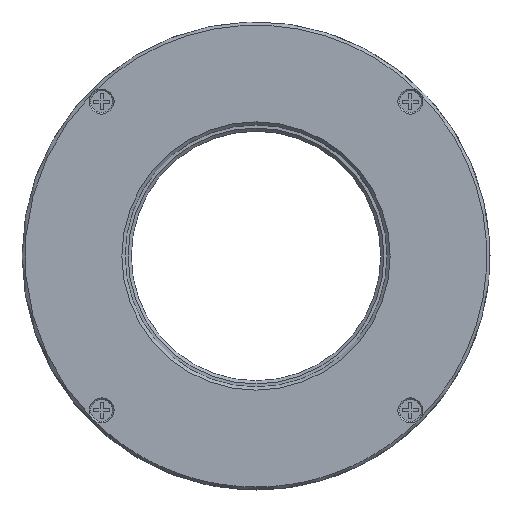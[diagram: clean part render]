
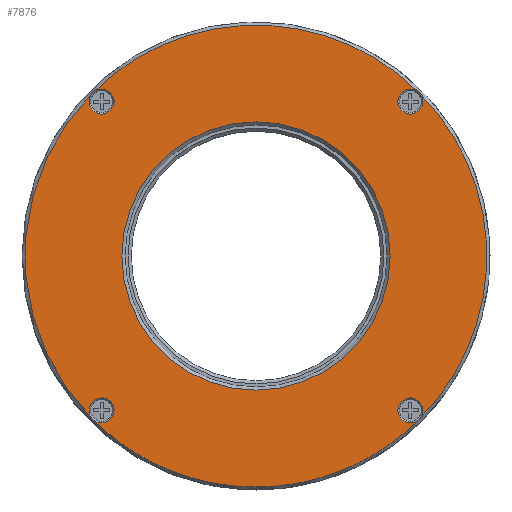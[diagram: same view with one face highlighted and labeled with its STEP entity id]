
A CAD part, front view. The second image highlights one B-rep face of the part: STEP entity #7876.
In plain terms, the highlighted planar face has unit normal (0, -1, 0).
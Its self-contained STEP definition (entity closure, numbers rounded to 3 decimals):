
#7790=CARTESIAN_POINT('',(-21.5,-1.5,0.));
#7791=VERTEX_POINT('',#7790);
#7792=CARTESIAN_POINT('',(0.0,-1.5,0.0));
#7793=DIRECTION('',(0.0,-1.0,0.0));
#7794=DIRECTION('',(1.0,0.0,0.0));
#7795=AXIS2_PLACEMENT_3D('',#7792,#7793,#7794);
#7796=CIRCLE('',#7795,21.5);
#7797=EDGE_CURVE('',#7791,#7791,#7796,.T.);
#7802=CARTESIAN_POINT('',(-29.25,-1.5,0.));
#7803=DIRECTION('',(0.0,-1.0,0.0));
#7804=DIRECTION('',(0.0,0.0,-1.0));
#7805=AXIS2_PLACEMENT_3D('',#7802,#7803,#7804);
#7806=PLANE('',#7805);
#7807=CARTESIAN_POINT('',(26.163,-1.5,-26.163));
#7808=VERTEX_POINT('',#7807);
#7809=CARTESIAN_POINT('',(24.749,-1.5,-24.749));
#7810=DIRECTION('',(0.0,1.0,0.0));
#7811=DIRECTION('',(0.0,0.0,-1.0));
#7812=AXIS2_PLACEMENT_3D('',#7809,#7810,#7811);
#7813=CIRCLE('',#7812,2.0);
#7814=EDGE_CURVE('',#7808,#7808,#7813,.T.);
#7815=ORIENTED_EDGE('',*,*,#7814,.T.);
#7816=CARTESIAN_POINT('',(26.163,-1.5,26.163));
#7817=VERTEX_POINT('',#7816);
#7818=CARTESIAN_POINT('',(0.0,-1.5,0.0));
#7819=DIRECTION('',(0.0,1.0,0.0));
#7820=DIRECTION('',(1.0,0.0,0.0));
#7821=AXIS2_PLACEMENT_3D('',#7818,#7819,#7820);
#7822=CIRCLE('',#7821,37.0);
#7823=EDGE_CURVE('',#7817,#7808,#7822,.T.);
#7824=ORIENTED_EDGE('',*,*,#7823,.F.);
#7825=CARTESIAN_POINT('',(24.749,-1.5,24.749));
#7826=DIRECTION('',(0.0,1.0,0.0));
#7827=DIRECTION('',(1.0,0.0,0.0));
#7828=AXIS2_PLACEMENT_3D('',#7825,#7826,#7827);
#7829=CIRCLE('',#7828,2.0);
#7830=EDGE_CURVE('',#7817,#7817,#7829,.T.);
#7831=ORIENTED_EDGE('',*,*,#7830,.T.);
#7832=CARTESIAN_POINT('',(-26.163,-1.5,26.163));
#7833=VERTEX_POINT('',#7832);
#7834=CARTESIAN_POINT('',(0.0,-1.5,0.0));
#7835=DIRECTION('',(0.0,1.0,0.0));
#7836=DIRECTION('',(1.0,0.0,0.0));
#7837=AXIS2_PLACEMENT_3D('',#7834,#7835,#7836);
#7838=CIRCLE('',#7837,37.0);
#7839=EDGE_CURVE('',#7833,#7817,#7838,.T.);
#7840=ORIENTED_EDGE('',*,*,#7839,.F.);
#7841=CARTESIAN_POINT('',(-24.749,-1.5,24.749));
#7842=DIRECTION('',(0.0,1.0,0.0));
#7843=DIRECTION('',(0.0,0.0,1.0));
#7844=AXIS2_PLACEMENT_3D('',#7841,#7842,#7843);
#7845=CIRCLE('',#7844,2.0);
#7846=EDGE_CURVE('',#7833,#7833,#7845,.T.);
#7847=ORIENTED_EDGE('',*,*,#7846,.T.);
#7848=CARTESIAN_POINT('',(-26.163,-1.5,-26.163));
#7849=VERTEX_POINT('',#7848);
#7850=CARTESIAN_POINT('',(0.0,-1.5,0.0));
#7851=DIRECTION('',(0.0,1.0,0.0));
#7852=DIRECTION('',(1.0,0.0,0.0));
#7853=AXIS2_PLACEMENT_3D('',#7850,#7851,#7852);
#7854=CIRCLE('',#7853,37.0);
#7855=EDGE_CURVE('',#7849,#7833,#7854,.T.);
#7856=ORIENTED_EDGE('',*,*,#7855,.F.);
#7857=CARTESIAN_POINT('',(-24.749,-1.5,-24.749));
#7858=DIRECTION('',(0.0,1.0,0.0));
#7859=DIRECTION('',(-1.0,0.0,0.0));
#7860=AXIS2_PLACEMENT_3D('',#7857,#7858,#7859);
#7861=CIRCLE('',#7860,2.0);
#7862=EDGE_CURVE('',#7849,#7849,#7861,.T.);
#7863=ORIENTED_EDGE('',*,*,#7862,.T.);
#7864=CARTESIAN_POINT('',(0.0,-1.5,0.0));
#7865=DIRECTION('',(0.0,1.0,0.0));
#7866=DIRECTION('',(1.0,0.0,0.0));
#7867=AXIS2_PLACEMENT_3D('',#7864,#7865,#7866);
#7868=CIRCLE('',#7867,37.0);
#7869=EDGE_CURVE('',#7808,#7849,#7868,.T.);
#7870=ORIENTED_EDGE('',*,*,#7869,.F.);
#7871=EDGE_LOOP('',(#7815,#7824,#7831,#7840,#7847,#7856,#7863,#7870));
#7872=FACE_OUTER_BOUND('',#7871,.T.);
#7873=ORIENTED_EDGE('',*,*,#7797,.F.);
#7874=EDGE_LOOP('',(#7873));
#7875=FACE_BOUND('',#7874,.T.);
#7876=ADVANCED_FACE('',(#7872,#7875),#7806,.T.);
